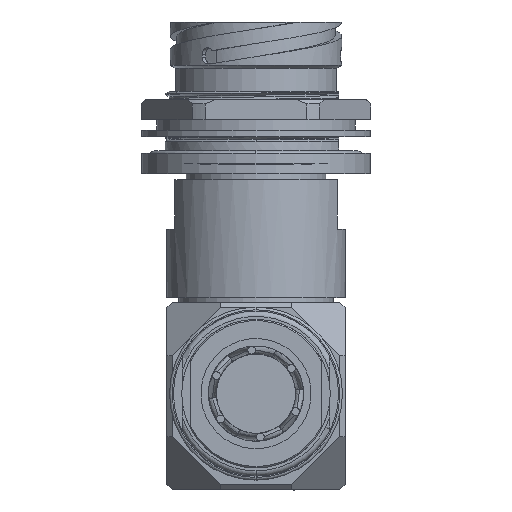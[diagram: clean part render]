
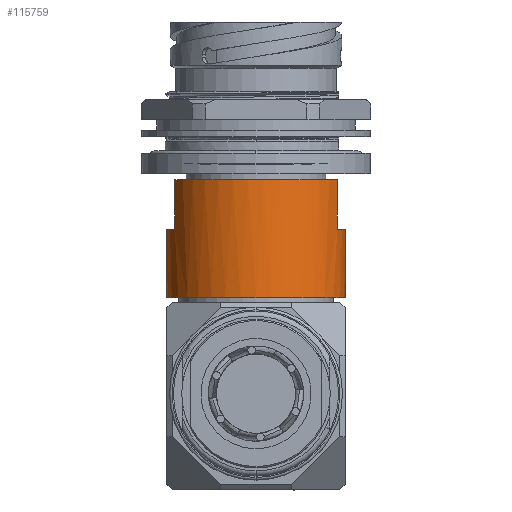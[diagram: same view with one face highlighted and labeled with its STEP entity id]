
A CAD part, front view. The second image highlights one B-rep face of the part: STEP entity #115759.
In plain terms, the highlighted cylindrical face has radius 17.272 mm (diameter 34.544 mm), a partial arc.
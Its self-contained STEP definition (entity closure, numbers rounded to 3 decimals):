
#30 = CIRCLE ( 'NONE', #79729, 17.272 ) ;
#178 = DIRECTION ( 'NONE',  ( 1., 0., 0. ) ) ;
#1418 = DIRECTION ( 'NONE',  ( 0., 0., -1. ) ) ;
#2424 = CARTESIAN_POINT ( 'NONE',  ( -15.621, -7.369, -39.853 ) ) ;
#2551 = VERTEX_POINT ( 'NONE', #79134 ) ;
#4080 = DIRECTION ( 'NONE',  ( 0., 0., -1. ) ) ;
#6076 = CARTESIAN_POINT ( 'NONE',  ( 0., 0., -39.853 ) ) ;
#7057 = LINE ( 'NONE', #83142, #14167 ) ;
#7875 = ORIENTED_EDGE ( 'NONE', *, *, #38460, .T. ) ;
#10524 = LINE ( 'NONE', #90167, #58642 ) ;
#14167 = VECTOR ( 'NONE', #81920, 1000. ) ;
#16063 = DIRECTION ( 'NONE',  ( 0., 0., 1. ) ) ;
#19881 = CARTESIAN_POINT ( 'NONE',  ( 0., 0., -30.328 ) ) ;
#22663 = VERTEX_POINT ( 'NONE', #70927 ) ;
#26342 = ORIENTED_EDGE ( 'NONE', *, *, #76584, .F. ) ;
#26727 = ORIENTED_EDGE ( 'NONE', *, *, #27913, .F. ) ;
#27913 = EDGE_CURVE ( 'NONE', #22663, #63993, #53330, .T. ) ;
#28299 = CARTESIAN_POINT ( 'NONE',  ( 0., 0., -30.328 ) ) ;
#31830 = EDGE_CURVE ( 'NONE', #66074, #119209, #84466, .T. ) ;
#33128 = EDGE_CURVE ( 'NONE', #2551, #66074, #10524, .T. ) ;
#34609 = DIRECTION ( 'NONE',  ( 0., 0., -1. ) ) ;
#37128 = ORIENTED_EDGE ( 'NONE', *, *, #33128, .F. ) ;
#38460 = EDGE_CURVE ( 'NONE', #22663, #98593, #67626, .T. ) ;
#41012 = ORIENTED_EDGE ( 'NONE', *, *, #31830, .F. ) ;
#41083 = DIRECTION ( 'NONE',  ( 1., 0., 0. ) ) ;
#43087 = EDGE_CURVE ( 'NONE', #60656, #69132, #30, .T. ) ;
#43645 = CARTESIAN_POINT ( 'NONE',  ( -17.272, 0., -39.853 ) ) ;
#43970 = CARTESIAN_POINT ( 'NONE',  ( 15.621, -7.369, -30.328 ) ) ;
#44139 = DIRECTION ( 'NONE',  ( 1., 0., 0. ) ) ;
#49205 = EDGE_CURVE ( 'NONE', #69132, #98593, #85340, .T. ) ;
#53330 = LINE ( 'NONE', #43970, #121545 ) ;
#55124 = DIRECTION ( 'NONE',  ( 0., 0., -1. ) ) ;
#56593 = AXIS2_PLACEMENT_3D ( 'NONE', #85010, #55124, #178 ) ;
#56692 = EDGE_LOOP ( 'NONE', ( #83466, #59168, #41012, #37128, #26342, #26727, #7875, #120554 ) ) ;
#58642 = VECTOR ( 'NONE', #4080, 1000. ) ;
#59168 = ORIENTED_EDGE ( 'NONE', *, *, #106612, .T. ) ;
#60656 = VERTEX_POINT ( 'NONE', #43645 ) ;
#63993 = VERTEX_POINT ( 'NONE', #84902 ) ;
#66074 = VERTEX_POINT ( 'NONE', #89440 ) ;
#67626 = CIRCLE ( 'NONE', #87561, 17.272 ) ;
#69132 = VERTEX_POINT ( 'NONE', #2424 ) ;
#70927 = CARTESIAN_POINT ( 'NONE',  ( 15.621, -7.369, -30.328 ) ) ;
#71487 = CARTESIAN_POINT ( 'NONE',  ( -17.272, 0., -53.01 ) ) ;
#72166 = DIRECTION ( 'NONE',  ( 1., 0., 0. ) ) ;
#72780 = CARTESIAN_POINT ( 'NONE',  ( 0., 0., -39.853 ) ) ;
#76584 = EDGE_CURVE ( 'NONE', #63993, #2551, #77490, .T. ) ;
#77490 = CIRCLE ( 'NONE', #84046, 17.272 ) ;
#78501 = DIRECTION ( 'NONE',  ( 0., 0., -1. ) ) ;
#79134 = CARTESIAN_POINT ( 'NONE',  ( 17.272, 0., -39.853 ) ) ;
#79729 = AXIS2_PLACEMENT_3D ( 'NONE', #6076, #16063, #44139 ) ;
#81920 = DIRECTION ( 'NONE',  ( 0., 0., -1. ) ) ;
#83142 = CARTESIAN_POINT ( 'NONE',  ( -17.272, 0., -30.328 ) ) ;
#83466 = ORIENTED_EDGE ( 'NONE', *, *, #43087, .F. ) ;
#84046 = AXIS2_PLACEMENT_3D ( 'NONE', #72780, #92110, #72166 ) ;
#84466 = CIRCLE ( 'NONE', #56593, 17.272 ) ;
#84902 = CARTESIAN_POINT ( 'NONE',  ( 15.621, -7.369, -39.853 ) ) ;
#85010 = CARTESIAN_POINT ( 'NONE',  ( 0., 0., -53.01 ) ) ;
#85031 = CARTESIAN_POINT ( 'NONE',  ( -15.621, -7.369, -30.328 ) ) ;
#85340 = LINE ( 'NONE', #86568, #121575 ) ;
#86258 = CYLINDRICAL_SURFACE ( 'NONE', #121377, 17.272 ) ;
#86568 = CARTESIAN_POINT ( 'NONE',  ( -15.621, -7.369, -30.328 ) ) ;
#87561 = AXIS2_PLACEMENT_3D ( 'NONE', #19881, #78501, #41083 ) ;
#89440 = CARTESIAN_POINT ( 'NONE',  ( 17.272, 0., -53.01 ) ) ;
#90167 = CARTESIAN_POINT ( 'NONE',  ( 17.272, 0., -30.328 ) ) ;
#92110 = DIRECTION ( 'NONE',  ( 0., 0., 1. ) ) ;
#98593 = VERTEX_POINT ( 'NONE', #85031 ) ;
#104389 = DIRECTION ( 'NONE',  ( 1., 0., 0. ) ) ;
#106612 = EDGE_CURVE ( 'NONE', #60656, #119209, #7057, .T. ) ;
#113751 = FACE_OUTER_BOUND ( 'NONE', #56692, .T. ) ;
#115277 = DIRECTION ( 'NONE',  ( 0., 0., 1. ) ) ;
#115759 = ADVANCED_FACE ( 'NONE', ( #113751 ), #86258, .T. ) ;
#119209 = VERTEX_POINT ( 'NONE', #71487 ) ;
#120554 = ORIENTED_EDGE ( 'NONE', *, *, #49205, .F. ) ;
#121377 = AXIS2_PLACEMENT_3D ( 'NONE', #28299, #1418, #104389 ) ;
#121545 = VECTOR ( 'NONE', #34609, 1000. ) ;
#121575 = VECTOR ( 'NONE', #115277, 1000. ) ;
